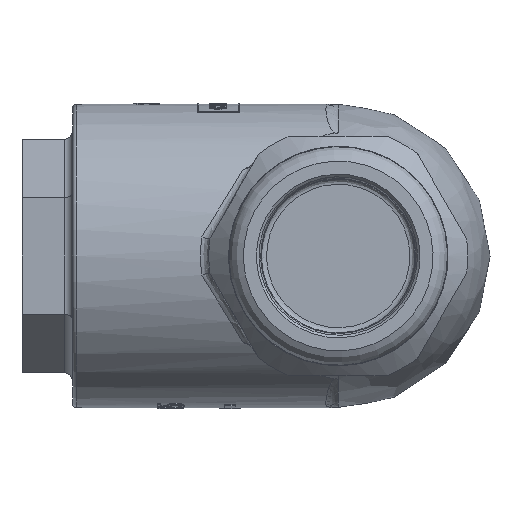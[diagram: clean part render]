
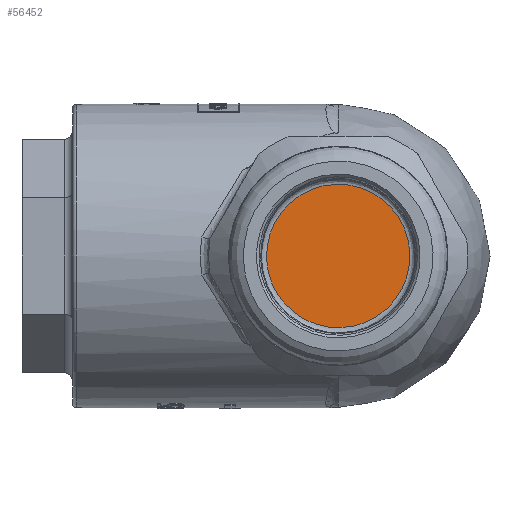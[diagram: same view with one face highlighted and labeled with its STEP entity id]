
A CAD part, left-side view. The second image highlights one B-rep face of the part: STEP entity #56452.
In plain terms, the highlighted planar face has unit normal (-1, 0, 0).
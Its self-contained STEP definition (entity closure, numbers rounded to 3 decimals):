
#56436=CARTESIAN_POINT('',(-62.5,3.759,1.982));
#56437=DIRECTION('',(-1.0,0.0,0.0));
#56438=DIRECTION('',(0.0,-0.466,0.885));
#56439=AXIS2_PLACEMENT_3D('',#56436,#56437,#56438);
#56440=PLANE('',#56439);
#56441=CARTESIAN_POINT('',(-62.5,7.519,3.965));
#56442=VERTEX_POINT('',#56441);
#56443=CARTESIAN_POINT('',(-62.5,0.,0.));
#56444=DIRECTION('',(-1.,0.,0.));
#56445=DIRECTION('',(0.,0.885,0.466));
#56446=AXIS2_PLACEMENT_3D('',#56443,#56444,#56445);
#56447=CIRCLE('',#56446,8.5);
#56448=EDGE_CURVE('',#56442,#56442,#56447,.T.);
#56449=ORIENTED_EDGE('',*,*,#56448,.T.);
#56450=EDGE_LOOP('',(#56449));
#56451=FACE_OUTER_BOUND('',#56450,.T.);
#56452=ADVANCED_FACE('',(#56451),#56440,.T.);
